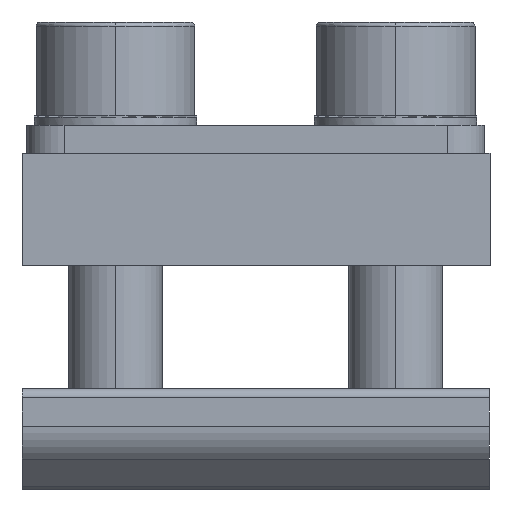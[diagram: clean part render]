
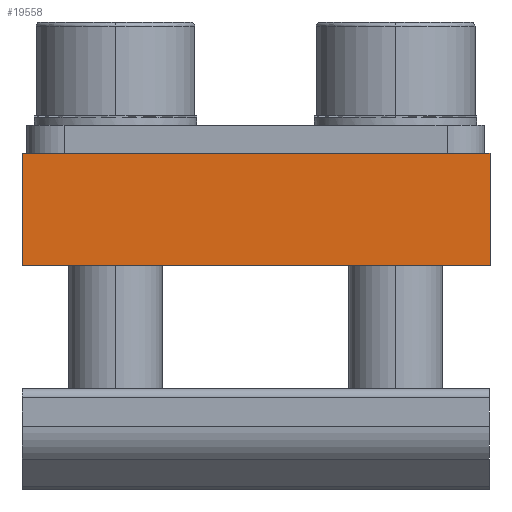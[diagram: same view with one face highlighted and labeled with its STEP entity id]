
A CAD part, front view. The second image highlights one B-rep face of the part: STEP entity #19558.
In plain terms, the highlighted planar face has unit normal (0, -1, 0).
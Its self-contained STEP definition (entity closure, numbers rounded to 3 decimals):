
#339 = EDGE_CURVE ( 'NONE', #23883, #9227, #21766, .T. ) ;
#3176 = DIRECTION ( 'NONE',  ( 1., 0., 0. ) ) ;
#3761 = VECTOR ( 'NONE', #15286, 1000. ) ;
#5187 = VECTOR ( 'NONE', #5684, 1000. ) ;
#5191 = PLANE ( 'NONE',  #9095 ) ;
#5228 = LINE ( 'NONE', #6833, #19437 ) ;
#5625 = CARTESIAN_POINT ( 'NONE',  ( -31.578, -35.412, 8.65 ) ) ;
#5684 = DIRECTION ( 'NONE',  ( 0., 0., 1. ) ) ;
#5811 = LINE ( 'NONE', #15999, #7322 ) ;
#6833 = CARTESIAN_POINT ( 'NONE',  ( -44.078, -35.412, 8.65 ) ) ;
#7322 = VECTOR ( 'NONE', #19974, 1000. ) ;
#7354 = DIRECTION ( 'NONE',  ( 0., 1., 0. ) ) ;
#7447 = ORIENTED_EDGE ( 'NONE', *, *, #17075, .F. ) ;
#7602 = CARTESIAN_POINT ( 'NONE',  ( -31.578, -35.412, 14.65 ) ) ;
#7713 = EDGE_LOOP ( 'NONE', ( #22977, #7447, #24819, #16141 ) ) ;
#9026 = DIRECTION ( 'NONE',  ( 0., 0., 1. ) ) ;
#9095 = AXIS2_PLACEMENT_3D ( 'NONE', #11053, #7354, #9026 ) ;
#9227 = VERTEX_POINT ( 'NONE', #7602 ) ;
#11053 = CARTESIAN_POINT ( 'NONE',  ( -56.578, -35.412, 8.65 ) ) ;
#11499 = EDGE_CURVE ( 'NONE', #17879, #23883, #5228, .T. ) ;
#14003 = LINE ( 'NONE', #15450, #3761 ) ;
#15237 = VERTEX_POINT ( 'NONE', #15904 ) ;
#15286 = DIRECTION ( 'NONE',  ( 0., 0., 1. ) ) ;
#15450 = CARTESIAN_POINT ( 'NONE',  ( -56.578, -35.412, 11.65 ) ) ;
#15904 = CARTESIAN_POINT ( 'NONE',  ( -56.578, -35.412, 14.65 ) ) ;
#15999 = CARTESIAN_POINT ( 'NONE',  ( -44.078, -35.412, 14.65 ) ) ;
#16081 = CARTESIAN_POINT ( 'NONE',  ( -56.578, -35.412, 8.65 ) ) ;
#16141 = ORIENTED_EDGE ( 'NONE', *, *, #339, .T. ) ;
#17075 = EDGE_CURVE ( 'NONE', #17879, #15237, #14003, .T. ) ;
#17879 = VERTEX_POINT ( 'NONE', #16081 ) ;
#19437 = VECTOR ( 'NONE', #3176, 1000. ) ;
#19468 = EDGE_CURVE ( 'NONE', #15237, #9227, #5811, .T. ) ;
#19558 = ADVANCED_FACE ( 'NONE', ( #23014 ), #5191, .F. ) ;
#19974 = DIRECTION ( 'NONE',  ( 1., 0., 0. ) ) ;
#20816 = CARTESIAN_POINT ( 'NONE',  ( -31.578, -35.412, 11.65 ) ) ;
#21766 = LINE ( 'NONE', #20816, #5187 ) ;
#22977 = ORIENTED_EDGE ( 'NONE', *, *, #19468, .F. ) ;
#23014 = FACE_OUTER_BOUND ( 'NONE', #7713, .T. ) ;
#23883 = VERTEX_POINT ( 'NONE', #5625 ) ;
#24819 = ORIENTED_EDGE ( 'NONE', *, *, #11499, .T. ) ;
